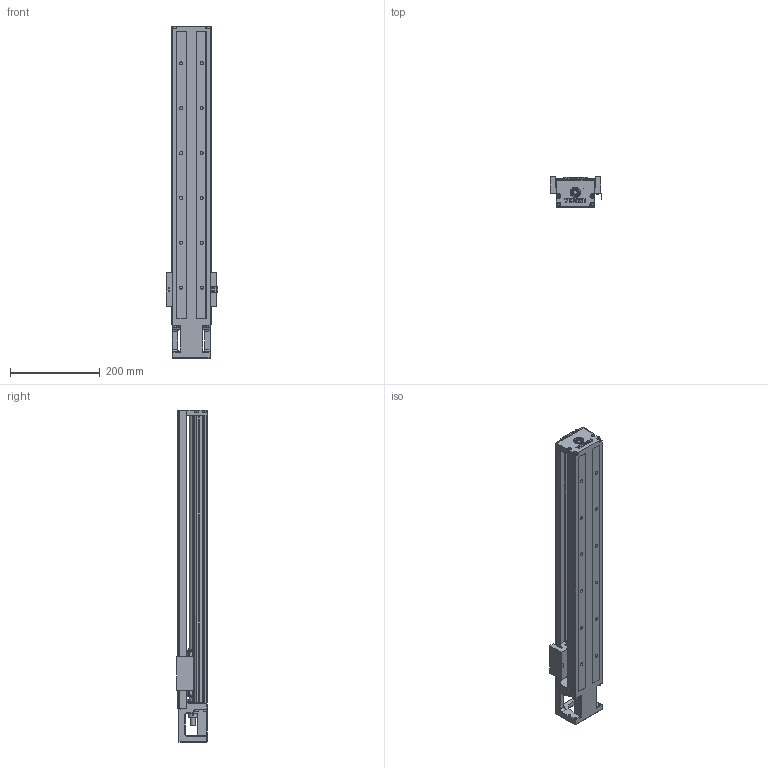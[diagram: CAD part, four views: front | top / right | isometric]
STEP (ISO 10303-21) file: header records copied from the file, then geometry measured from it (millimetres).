
FILE_DESCRIPTION (( 'STEP AP214' ), '1' );
FILE_NAME ('7.0124 KT8620C-640A1-F0C.STEP', '2026-03-17T12:25:17', ( '' ), ( '' ), 'SwSTEP 2.0', 'SolidWorks 2025', '' );
FILE_SCHEMA (( 'AUTOMOTIVE_DESIGN' ));
Length unit declared in the file: millimetre
Products named in the file (4): KT86-A1-C; 7.0124 KT8620C-640A1-F0C; KT86-CU_640; KT86-K0_KKR86-ZT-P-640
Assembly tree (3 placements, depth 2):
  7.0124 KT8620C-640A1-F0C
    KT86-K0_KKR86-ZT-P-640
    KT86-A1-C
    KT86-CU_640
Bounding box: 114.7 x 68 x 740.2 mm (x, y, z)
Volume: 1741075.8 mm3; surface area: 549468.5 mm2
Topology: 27 solids, 27 shells, 1681 faces, 4360 edges, 2721 vertices
Faces by surface type: plane 783, cylinder 586, cone 212, torus 59, sphere 24, bspline 17
Entity records: 67373 total; most frequent: CARTESIAN_POINT 11236, DIRECTION 8843, ORIENTED_EDGE 8500, EDGE_CURVE 4250, AXIS2_PLACEMENT_3D 3129, VERTEX_POINT 2721, VECTOR 2585, LINE 2585
